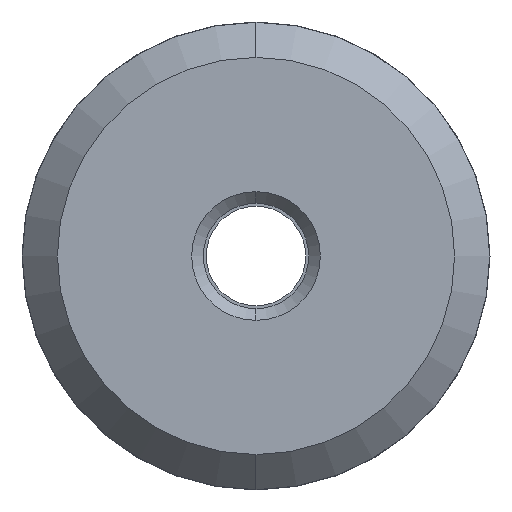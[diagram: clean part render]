
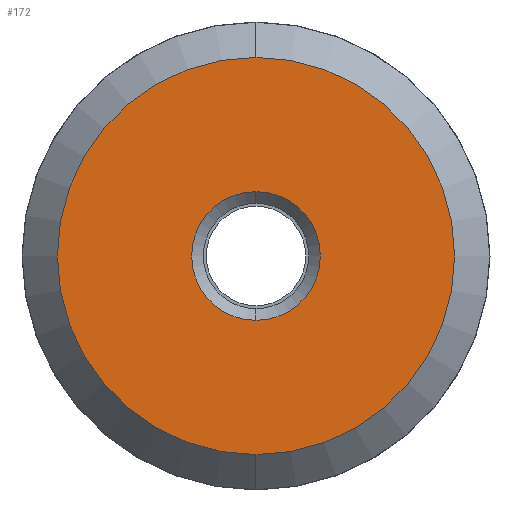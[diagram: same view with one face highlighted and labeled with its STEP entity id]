
A CAD part, front view. The second image highlights one B-rep face of the part: STEP entity #172.
In plain terms, the highlighted planar face has unit normal (0, -1, 0).
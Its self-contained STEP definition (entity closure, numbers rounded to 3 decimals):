
#70=CARTESIAN_POINT('Vertex',(0.,0.,5.5)) ;
#73=CARTESIAN_POINT('Axis2P3D Location',(0.,0.,0.)) ;
#77=CARTESIAN_POINT('Vertex',(0.,0.,-5.5)) ;
#133=CARTESIAN_POINT('Axis2P3D Location',(0.,0.,0.)) ;
#145=CARTESIAN_POINT('Axis2P3D Location',(-11.25,0.,0.)) ;
#150=CARTESIAN_POINT('Axis2P3D Location',(0.,0.,0.)) ;
#154=CARTESIAN_POINT('Vertex',(0.,0.,16.975)) ;
#156=CARTESIAN_POINT('Vertex',(0.,0.,-16.975)) ;
#159=CARTESIAN_POINT('Axis2P3D Location',(0.,0.,0.)) ;
#74=DIRECTION('Axis2P3D Direction',(0.,-1.,-0.)) ;
#134=DIRECTION('Axis2P3D Direction',(0.,-1.,-0.)) ;
#146=DIRECTION('Axis2P3D Direction',(0.,-1.,0.)) ;
#147=DIRECTION('Axis2P3D XDirection',(0.,0.,-1.)) ;
#151=DIRECTION('Axis2P3D Direction',(0.,-1.,0.)) ;
#160=DIRECTION('Axis2P3D Direction',(0.,-1.,0.)) ;
#75=AXIS2_PLACEMENT_3D('Circle Axis2P3D',#73,#74,$) ;
#135=AXIS2_PLACEMENT_3D('Circle Axis2P3D',#133,#134,$) ;
#148=AXIS2_PLACEMENT_3D('Plane Axis2P3D',#145,#146,#147) ;
#152=AXIS2_PLACEMENT_3D('Circle Axis2P3D',#150,#151,$) ;
#161=AXIS2_PLACEMENT_3D('Circle Axis2P3D',#159,#160,$) ;
#165=ORIENTED_EDGE('',*,*,#158,.T.) ;
#166=ORIENTED_EDGE('',*,*,#163,.T.) ;
#169=ORIENTED_EDGE('',*,*,#79,.T.) ;
#170=ORIENTED_EDGE('',*,*,#137,.T.) ;
#171=FACE_BOUND('',#168,.T.) ;
#172=ADVANCED_FACE('Smusso1',(#167,#171),#149,.T.) ;
#76=CIRCLE('generated circle',#75,5.5) ;
#136=CIRCLE('generated circle',#135,5.5) ;
#153=CIRCLE('generated circle',#152,16.975) ;
#162=CIRCLE('generated circle',#161,16.975) ;
#79=EDGE_CURVE('',#78,#71,#76,.F.) ;
#137=EDGE_CURVE('',#71,#78,#136,.F.) ;
#158=EDGE_CURVE('',#155,#157,#153,.T.) ;
#163=EDGE_CURVE('',#157,#155,#162,.T.) ;
#164=EDGE_LOOP('',(#165,#166)) ;
#168=EDGE_LOOP('',(#169,#170)) ;
#167=FACE_OUTER_BOUND('',#164,.T.) ;
#149=PLANE('Plane',#148) ;
#71=VERTEX_POINT('',#70) ;
#78=VERTEX_POINT('',#77) ;
#155=VERTEX_POINT('',#154) ;
#157=VERTEX_POINT('',#156) ;
